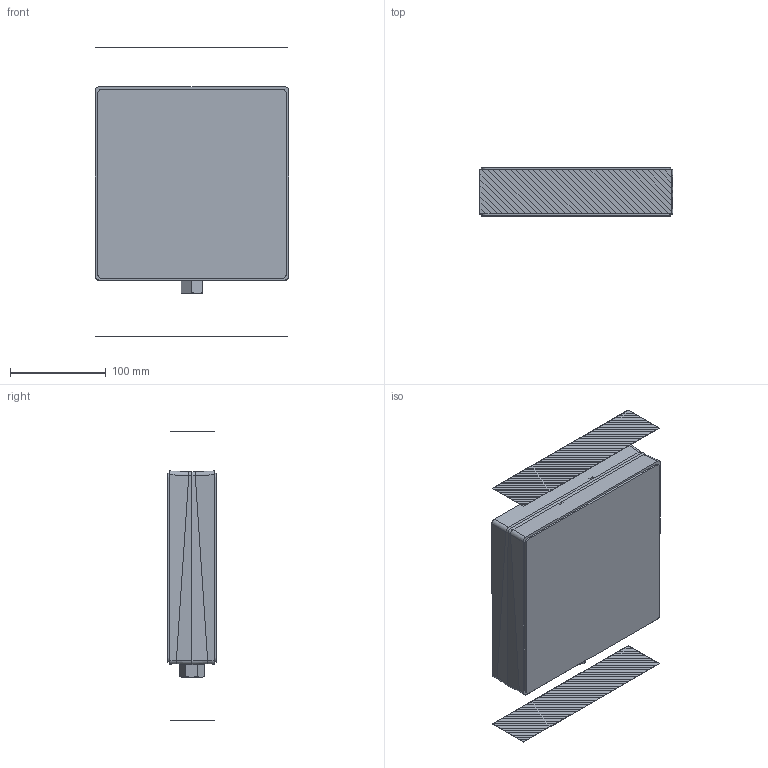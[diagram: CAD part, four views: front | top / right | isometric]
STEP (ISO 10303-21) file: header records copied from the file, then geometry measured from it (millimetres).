
FILE_DESCRIPTION (( 'STEP AP214' ), '1' );
FILE_NAME ('4-VRC-2-2.step', '2014-01-07T08:48:24', ( 'admin' ), ( '' ), 'SwSTEP 2.0', 'SolidWorks 2012', '' );
FILE_SCHEMA (( 'AUTOMOTIVE_DESIGN' ));
Length unit declared in the file: millimetre
Products named in the file (3): SS 002810_4-VRC; SS 000657_4-VRC-2-2; 4-VRC-2-2
Assembly tree (2 placements, depth 2):
  4-VRC-2-2
    SS 000657_4-VRC-2-2
    SS 002810_4-VRC
Bounding box: 202.08 x 50.2 x 301 mm (x, y, z)
Volume: 2017595.3 mm3; surface area: 167197 mm2
Topology: 5 solids, 8 shells, 472 faces, 1244 edges, 809 vertices
Faces by surface type: plane 361, cylinder 55, bspline 30, cone 21, torus 5
Entity records: 18767 total; most frequent: CARTESIAN_POINT 6616, ORIENTED_EDGE 2484, DIRECTION 2082, EDGE_CURVE 1242, LINE 992, VECTOR 992, VERTEX_POINT 809, AXIS2_PLACEMENT_3D 545
